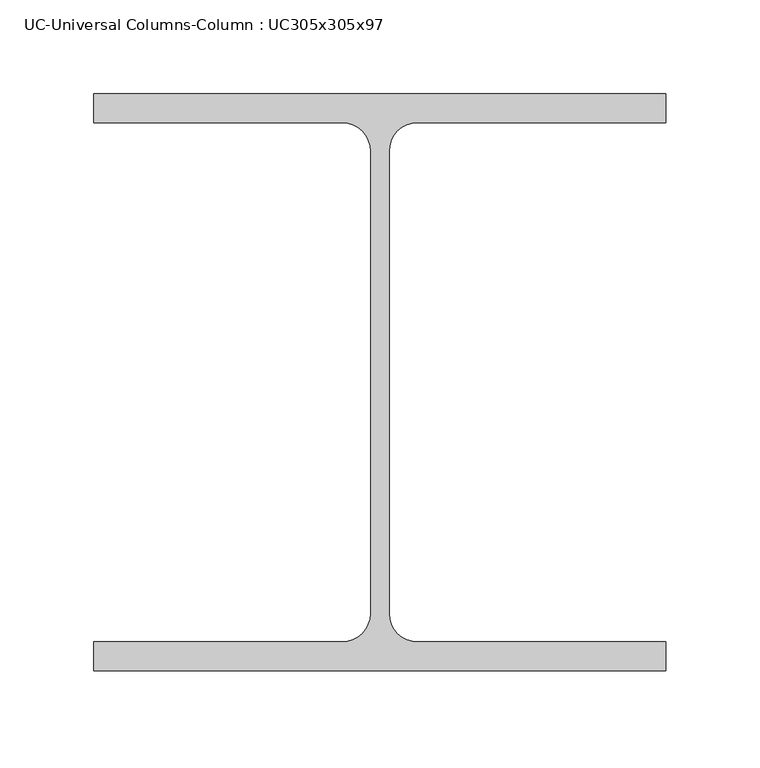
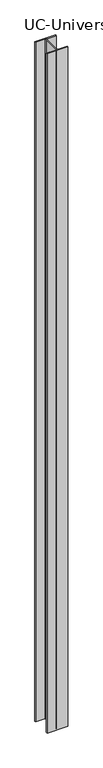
"""IFC4 building model written with IfcOpenShell, lengths in millimetres: column geometry, UC-Universal Columns-Column : UC305x305x97."""

from ifc_helpers import new_model, si_unit, point, frame, frame_2d, origin, place, context, project, spatial, polyline, circle_curve, trimmed, segment, composite_curve, outline, extrude, source, transform, mapped, element, save


def uc_universal_columns_column_uc305x305x97_fef2955b(model_context):
    return source(origin(), model_context, "Body", "SweptSolid", [
        extrude(outline(composite_curve([segment(polyline([(152.65, 153.95), (152.65, 138.55), (20.15, 138.55)]), True, "CONTINUOUS"), segment(trimmed(circle_curve(frame_2d((20.15, 123.35)), 15.2), [point((20.15, 138.55))], [point((4.95, 123.35))], True, "CARTESIAN"), True, "CONTINUOUS"), segment(polyline([(4.95, 123.35), (4.95, -123.35)]), True, "CONTINUOUS"), segment(trimmed(circle_curve(frame_2d((20.15, -123.35)), 15.2), [point((4.95, -123.35))], [point((20.15, -138.55))], True, "CARTESIAN"), True, "CONTINUOUS"), segment(polyline([(20.15, -138.55), (152.65, -138.55), (152.65, -153.95), (-152.65, -153.95), (-152.65, -138.55), (-20.15, -138.55)]), True, "CONTINUOUS"), segment(trimmed(circle_curve(frame_2d((-20.15, -123.35)), 15.2), [point((-20.15, -138.55))], [point((-4.95, -123.35))], True, "CARTESIAN"), True, "CONTINUOUS"), segment(polyline([(-4.95, -123.35), (-4.95, 123.35)]), True, "CONTINUOUS"), segment(trimmed(circle_curve(frame_2d((-20.15, 123.35)), 15.2), [point((-4.95, 123.35))], [point((-20.15, 138.55))], True, "CARTESIAN"), True, "CONTINUOUS"), segment(polyline([(-20.15, 138.55), (-152.65, 138.55), (-152.65, 153.95), (152.65, 153.95)]), True, "CONTINUOUS")], self_intersect=False)), frame((0.0, 0.0, 1000.0), z_axis=(0.0, 0.0, 1.0), x_axis=(1.0, 0.0, 0.0)), (0.0, 0.0, 1.0), 10500.0),
    ])


if __name__ == "__main__":
    model = new_model("IFC4")
    model_context = context("Model", 3, world=origin())
    ifc_project = project(units=[si_unit("LENGTHUNIT", "METRE", prefix="MILLI")], contexts=[model_context])
    site = spatial("IfcSite", under=ifc_project)
    building = spatial("IfcBuilding", under=site)
    placement = place(None, origin())
    uc_universal_columns_column_uc305x305x97_shape = uc_universal_columns_column_uc305x305x97_fef2955b(model_context)
    element("IfcColumn", 1, ObjectType="UC-Universal Columns-Column : UC305x305x97", at=placement, inside=building, context=model_context, shape_type="MappedRepresentation", body=[
        mapped(uc_universal_columns_column_uc305x305x97_shape, transform((0.0, 0.0, 0.0), x_axis=(1.0, 0.0, 0.0), y_axis=(0.0, 1.0, 0.0), z_axis=(0.0, 0.0, 1.0))),
    ])
    save(model, "model.ifc")
